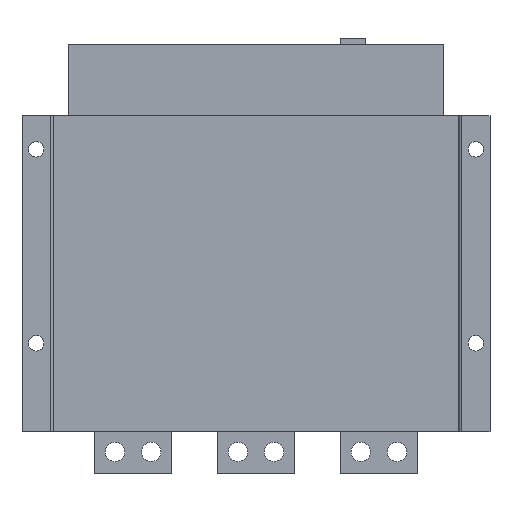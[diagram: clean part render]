
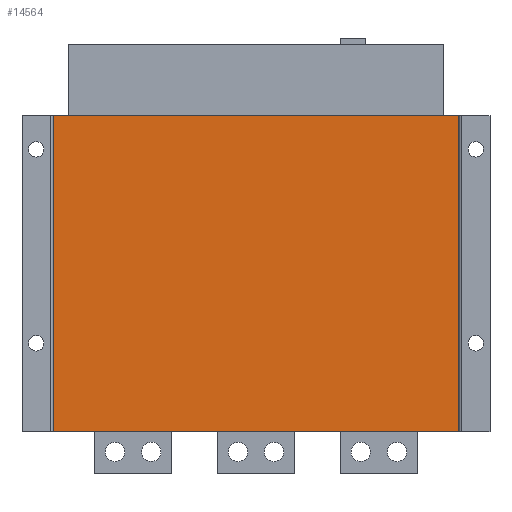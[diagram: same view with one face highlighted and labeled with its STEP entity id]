
A CAD part, front view. The second image highlights one B-rep face of the part: STEP entity #14564.
In plain terms, the highlighted planar face has unit normal (0, -1, 0).
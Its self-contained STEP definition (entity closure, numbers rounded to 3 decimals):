
#1442 = CARTESIAN_POINT ( 'NONE',  ( 159., 15., -244.5 ) ) ;
#2986 = ORIENTED_EDGE ( 'NONE', *, *, #7824, .T. ) ;
#3288 = VERTEX_POINT ( 'NONE', #35053 ) ;
#3700 = LINE ( 'NONE', #17701, #17600 ) ;
#3804 = VECTOR ( 'NONE', #12854, 1000. ) ;
#5184 = EDGE_CURVE ( 'NONE', #27264, #3288, #24288, .T. ) ;
#5998 = ORIENTED_EDGE ( 'NONE', *, *, #26735, .T. ) ;
#7824 = EDGE_CURVE ( 'NONE', #22981, #10866, #11226, .T. ) ;
#8191 = VECTOR ( 'NONE', #27497, 1000. ) ;
#9863 = EDGE_CURVE ( 'NONE', #3288, #10866, #3700, .T. ) ;
#10866 = VERTEX_POINT ( 'NONE', #13864 ) ;
#11226 = LINE ( 'NONE', #1442, #3804 ) ;
#12502 = LINE ( 'NONE', #21915, #8191 ) ;
#12854 = DIRECTION ( 'NONE',  ( 0., 0., 1. ) ) ;
#12963 = CARTESIAN_POINT ( 'NONE',  ( -159., 15., -244.5 ) ) ;
#12992 = ORIENTED_EDGE ( 'NONE', *, *, #5184, .F. ) ;
#13864 = CARTESIAN_POINT ( 'NONE',  ( 159., 15., 0. ) ) ;
#14564 = ADVANCED_FACE ( 'NONE', ( #21757 ), #21484, .T. ) ;
#16270 = CARTESIAN_POINT ( 'NONE',  ( 0., 15., -244.5 ) ) ;
#17600 = VECTOR ( 'NONE', #17942, 1000. ) ;
#17701 = CARTESIAN_POINT ( 'NONE',  ( 0., 15., 0. ) ) ;
#17942 = DIRECTION ( 'NONE',  ( 1., 0., 0. ) ) ;
#19030 = DIRECTION ( 'NONE',  ( 0., 0., -1. ) ) ;
#21484 = PLANE ( 'NONE',  #30193 ) ;
#21757 = FACE_OUTER_BOUND ( 'NONE', #25837, .T. ) ;
#21915 = CARTESIAN_POINT ( 'NONE',  ( 0., 15., -244.5 ) ) ;
#22981 = VERTEX_POINT ( 'NONE', #26440 ) ;
#24288 = LINE ( 'NONE', #12963, #26449 ) ;
#24388 = DIRECTION ( 'NONE',  ( 0., -1., 0. ) ) ;
#25837 = EDGE_LOOP ( 'NONE', ( #27494, #12992, #5998, #2986 ) ) ;
#26440 = CARTESIAN_POINT ( 'NONE',  ( 159., 15., -244.5 ) ) ;
#26449 = VECTOR ( 'NONE', #29926, 1000. ) ;
#26735 = EDGE_CURVE ( 'NONE', #27264, #22981, #12502, .T. ) ;
#27264 = VERTEX_POINT ( 'NONE', #34201 ) ;
#27494 = ORIENTED_EDGE ( 'NONE', *, *, #9863, .F. ) ;
#27497 = DIRECTION ( 'NONE',  ( 1., 0., 0. ) ) ;
#29926 = DIRECTION ( 'NONE',  ( 0., 0., 1. ) ) ;
#30193 = AXIS2_PLACEMENT_3D ( 'NONE', #16270, #24388, #19030 ) ;
#34201 = CARTESIAN_POINT ( 'NONE',  ( -159., 15., -244.5 ) ) ;
#35053 = CARTESIAN_POINT ( 'NONE',  ( -159., 15., 0. ) ) ;
